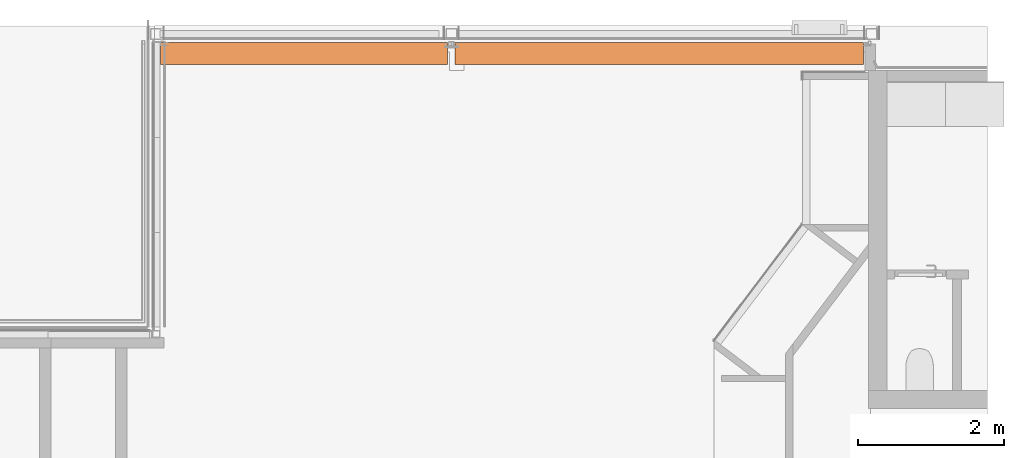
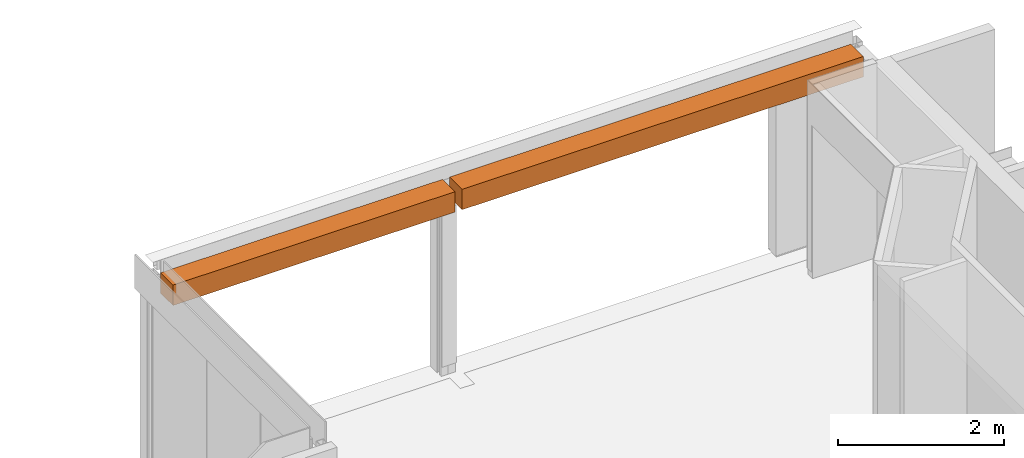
# One storey, part 36 of 37: 2 proxies.
"""IFC2X3 building model written with IfcOpenShell, lengths in millimetres."""

from ifc_helpers import new_model, entity, si_unit, converted_unit, derived_unit, direction, frame, origin, origin_with_axes, origin_2d_with_axis, place, context, subcontext, project, spatial, rectangle, extrude, source, transform, mapped, material, type_object, element, save


model = new_model("IFC2X3")

# Units and contexts
model_context = context("Model", 3, precision=0.01, world=frame((0.0, 4.29681676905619e-09, 0.0)), true_north=direction((4.01073788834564e-13, 1.0)))
plan_context = context("Plan", 3, precision=0.01, world=frame((0.0, 4.29681676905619e-09, 0.0)), true_north=direction((4.01073788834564e-13, 1.0)))
body_context = subcontext(model_context, "Body", "Model", "MODEL_VIEW")
ifc_project = project(units=[converted_unit("PLANEANGLEUNIT", "DEGREE", entity("IfcPositiveLengthMeasure", 0.0174532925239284), si_unit("PLANEANGLEUNIT", "RADIAN"), dimensions=[0, 0, 0, 0, 0, 0, 0]), si_unit("AREAUNIT", "SQUARE_METRE"), si_unit("LENGTHUNIT", "METRE", prefix="MILLI"), si_unit("MASSUNIT", "GRAM", prefix="KILO"), si_unit("POWERUNIT", "WATT"), si_unit("PRESSUREUNIT", "PASCAL"), si_unit("FORCEUNIT", "NEWTON", prefix="KILO"), si_unit("ELECTRICVOLTAGEUNIT", "VOLT"), si_unit("ELECTRICCURRENTUNIT", "AMPERE"), si_unit("THERMODYNAMICTEMPERATUREUNIT", "DEGREE_CELSIUS"), si_unit("TIMEUNIT", "SECOND"), si_unit("VOLUMEUNIT", "CUBIC_METRE"), derived_unit("LINEARVELOCITYUNIT", [(si_unit("LENGTHUNIT", "METRE"), 1), (si_unit("TIMEUNIT", "SECOND"), -1)]), derived_unit("VOLUMETRICFLOWRATEUNIT", [(si_unit("VOLUMEUNIT", "CUBIC_METRE"), 1), (si_unit("TIMEUNIT", "SECOND"), -1)]), derived_unit("THERMALTRANSMITTANCEUNIT", [(si_unit("POWERUNIT", "WATT"), 1), (si_unit("THERMODYNAMICTEMPERATUREUNIT", "KELVIN"), -1), (si_unit("AREAUNIT", "SQUARE_METRE"), -1)]), derived_unit("SOUNDPRESSUREUNIT", [(si_unit("PRESSUREUNIT", "PASCAL"), 1)])], contexts=[model_context, plan_context])

# Site, building, storey
site_placement = place(None, origin_with_axes())
site = spatial("IfcSite", under=ifc_project, at=site_placement, Name="ENGM", CompositionType="ELEMENT")
building_placement = place(site_placement, origin_with_axes())
building = spatial("IfcBuilding", under=site, at=building_placement, Name="TS", CompositionType="ELEMENT")
storey_placement = place(building_placement, frame((0.0, 0.0, 210900.0), z_axis=(0.0, 0.0, 1.0), x_axis=(1.0, 0.0, 0.0)))
storey = spatial("IfcBuildingStorey", under=building, at=storey_placement, Name="Nivå F", CompositionType="ELEMENT", Elevation=210900.0)

# Proxies
ifc_material = material(Name="<Unnamed>")
building_element_proxy_type_1 = type_object("IfcBuildingElementProxyType", Name="A234 - Gitter:A241 - Gitter 300 x 300_UK_2700_offset 51", PredefinedType="NOTDEFINED", material=ifc_material)
shared_shape_1 = source(origin(), body_context, "Body", "SweptSolid", [
    extrude(rectangle(XDim=5579.99999999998, YDim=300.0, at=origin_2d_with_axis()), frame((2790.0, 100.0, 2650.0), z_axis=(0.0, 0.0, 1.0), x_axis=(-1.0, 0.0, 0.0)), (0.0, 0.0, 1.0), 300.0),
])
proxy_1_placement = place(storey_placement, frame((534628.000000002, 461634.999999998, -100.0), z_axis=(0.0, 0.0, 1.0), x_axis=(-1.0, 0.0, 0.0)))
element("IfcBuildingElementProxy", 1, at=proxy_1_placement, inside=storey, type_object=building_element_proxy_type_1, material=ifc_material, Name="A234 - Gitter:A241 - Gitter 300 x 300_UK_2700_offset 51", ObjectType="A234 - Gitter:A241 - Gitter 300 x 300_UK_2700_offset 51", context=body_context, shape_type="MappedRepresentation", body=[
    mapped(shared_shape_1, transform((0.0, 0.0, 0.0), scale=1.0)),
])
building_element_proxy_type_2 = type_object("IfcBuildingElementProxyType", Name="A234 - Gitter:A241 - Gitter 300 x 300_UK_2700_offset 51", PredefinedType="NOTDEFINED", material=ifc_material)
shared_shape_2 = source(origin(), body_context, "Body", "SweptSolid", [
    extrude(rectangle(XDim=300.0, YDim=3917.99338224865, at=origin_2d_with_axis()), frame((1958.99669112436, -100.0, 2650.0), z_axis=(0.0, 0.0, 1.0), x_axis=(0.0, 1.0, 0.0)), (0.0, 0.0, 1.0), 300.0),
])
proxy_2_placement = place(storey_placement, frame((525030.097587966, 461634.999999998, -100.0), z_axis=(0.0, 0.0, 1.0), x_axis=(1.0, 0.0, 0.0)))
element("IfcBuildingElementProxy", 2, at=proxy_2_placement, inside=storey, type_object=building_element_proxy_type_2, material=ifc_material, Name="A234 - Gitter:A241 - Gitter 300 x 300_UK_2700_offset 51", ObjectType="A234 - Gitter:A241 - Gitter 300 x 300_UK_2700_offset 51", context=body_context, shape_type="MappedRepresentation", body=[
    mapped(shared_shape_2, transform((0.0, 0.0, 0.0), scale=1.0)),
])

save(model, "model.ifc")
